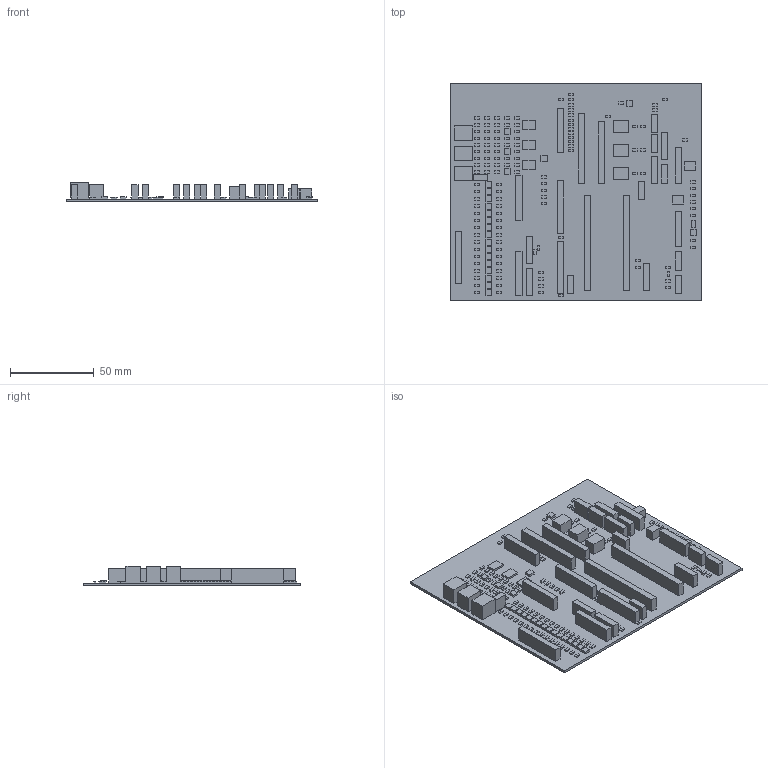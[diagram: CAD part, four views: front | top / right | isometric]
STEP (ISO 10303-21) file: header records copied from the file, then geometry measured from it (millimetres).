
FILE_DESCRIPTION(('Carrier board and the height envelope of every placed part'),'2;1');
FILE_NAME('EEG-CAR-01_RevC_carrier_with_component_envelopes','2026-09-08T00:00:00',('TI One Voice research programme'),(''),'EEG-CAR-01 step_write.py','','CC BY-SA 4.0');
FILE_SCHEMA(('AUTOMOTIVE_DESIGN { 1 0 10303 214 1 1 1 1 }'));
Length unit declared in the file: millimetre
Products named in the file (187): EEG-CAR-01_RevC_board; carrier_C1; carrier_C2; carrier_C3; carrier_C4; carrier_C5; carrier_C6; carrier_C7; carrier_C8; carrier_C9; carrier_C10; carrier_C11; carrier_C12; carrier_C13; carrier_C14; carrier_C15; carrier_C16; carrier_C20; carrier_C21; carrier_C22; carrier_C23; carrier_C24; carrier_C40; carrier_C41; carrier_C42; carrier_C43; carrier_C44; carrier_C50; carrier_C51; carrier_C52; carrier_C60; carrier_C61; carrier_C62; carrier_C63; carrier_C64; carrier_C70; carrier_C71; carrier_C72; carrier_C73; carrier_C74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
Bounding box: 150 x 130 x 11.6 mm (x, y, z)
Volume: 54582 mm3; surface area: 62149.5 mm2
Topology: 187 solids, 187 shells, 1122 faces, 2244 edges, 1496 vertices
Faces by surface type: plane 1122
Entity records: 10855 total; most frequent: DIRECTION 2246, CARTESIAN_POINT 1497, AXIS2_PLACEMENT_3D 1123, POLY_LOOP 1122, FACE_OUTER_BOUND 1122, PLANE 1122, FACE_SURFACE 1122, CLOSED_SHELL 187
